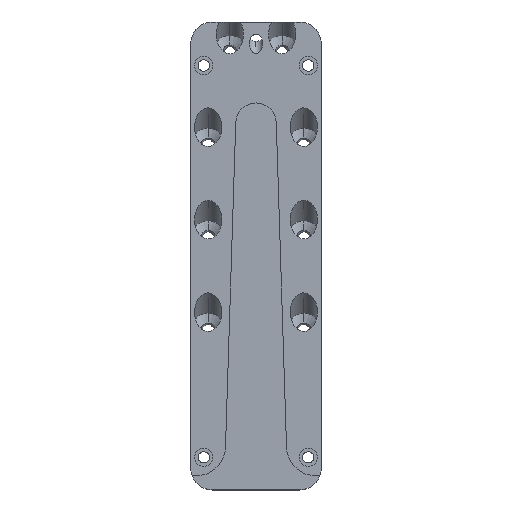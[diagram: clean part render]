
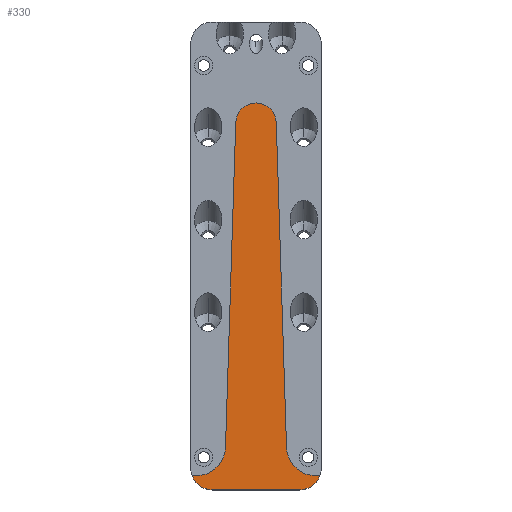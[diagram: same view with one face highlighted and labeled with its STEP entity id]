
A CAD part, top view. The second image highlights one B-rep face of the part: STEP entity #330.
In plain terms, the highlighted planar face has unit normal (0, 0, 1).
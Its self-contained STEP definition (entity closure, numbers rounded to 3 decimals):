
#117 = DIRECTION ( 'NONE',  ( 0., 0., 1. ) ) ;
#142 = CARTESIAN_POINT ( 'NONE',  ( -20., -65., 4. ) ) ;
#179 = DIRECTION ( 'NONE',  ( 1., 0., 0. ) ) ;
#321 = DIRECTION ( 'NONE',  ( 0., 0., -1. ) ) ;
#330 = ADVANCED_FACE ( 'NONE', ( #2421 ), #1927, .F. ) ;
#347 = DIRECTION ( 'NONE',  ( -1., 0., 0. ) ) ;
#356 = DIRECTION ( 'NONE',  ( 0., 0., 1. ) ) ;
#425 = EDGE_CURVE ( 'NONE', #1912, #1669, #1454, .T. ) ;
#505 = CARTESIAN_POINT ( 'NONE',  ( -27.484, -65., 4. ) ) ;
#526 = CIRCLE ( 'NONE', #1170, 12.779 ) ;
#536 = CARTESIAN_POINT ( 'NONE',  ( 12.773, 93.875, 4. ) ) ;
#557 = LINE ( 'NONE', #2792, #2001 ) ;
#587 = CARTESIAN_POINT ( 'NONE',  ( 0., -75., 4. ) ) ;
#589 = CARTESIAN_POINT ( 'NONE',  ( 20., -75., 4. ) ) ;
#621 = LINE ( 'NONE', #505, #2349 ) ;
#719 = VERTEX_POINT ( 'NONE', #1130 ) ;
#748 = DIRECTION ( 'NONE',  ( -1., 0., 0. ) ) ;
#783 = DIRECTION ( 'NONE',  ( -1., 0., 0. ) ) ;
#858 = ORIENTED_EDGE ( 'NONE', *, *, #2201, .F. ) ;
#901 = ORIENTED_EDGE ( 'NONE', *, *, #1123, .T. ) ;
#922 = CARTESIAN_POINT ( 'NONE',  ( 17.489, -55.316, 4. ) ) ;
#934 = EDGE_CURVE ( 'NONE', #1286, #1354, #1475, .T. ) ;
#1003 = DIRECTION ( 'NONE',  ( 0., 0., 1. ) ) ;
#1011 = ORIENTED_EDGE ( 'NONE', *, *, #2698, .F. ) ;
#1031 = VERTEX_POINT ( 'NONE', #1047 ) ;
#1047 = CARTESIAN_POINT ( 'NONE',  ( 27.484, -65., 4. ) ) ;
#1109 = EDGE_CURVE ( 'NONE', #1427, #1912, #2276, .T. ) ;
#1113 = ORIENTED_EDGE ( 'NONE', *, *, #1200, .F. ) ;
#1123 = EDGE_CURVE ( 'NONE', #2506, #1427, #2592, .T. ) ;
#1130 = CARTESIAN_POINT ( 'NONE',  ( -12.773, 93.875, 4. ) ) ;
#1154 = CARTESIAN_POINT ( 'NONE',  ( -17.489, -55.316, 4. ) ) ;
#1166 = DIRECTION ( 'NONE',  ( 0.032, 1., 0. ) ) ;
#1170 = AXIS2_PLACEMENT_3D ( 'NONE', #2087, #321, #748 ) ;
#1177 = ORIENTED_EDGE ( 'NONE', *, *, #425, .T. ) ;
#1200 = EDGE_CURVE ( 'NONE', #719, #1885, #526, .T. ) ;
#1204 = VECTOR ( 'NONE', #2407, 1000. ) ;
#1286 = VERTEX_POINT ( 'NONE', #2566 ) ;
#1294 = VECTOR ( 'NONE', #1854, 1000. ) ;
#1322 = CARTESIAN_POINT ( 'NONE',  ( -20., -75., 4. ) ) ;
#1354 = VERTEX_POINT ( 'NONE', #2416 ) ;
#1366 = DIRECTION ( 'NONE',  ( -1., 0., 0. ) ) ;
#1390 = ORIENTED_EDGE ( 'NONE', *, *, #2489, .F. ) ;
#1427 = VERTEX_POINT ( 'NONE', #1322 ) ;
#1454 = CIRCLE ( 'NONE', #2055, 10. ) ;
#1475 = CIRCLE ( 'NONE', #1651, 10. ) ;
#1498 = VECTOR ( 'NONE', #1166, 1000. ) ;
#1528 = DIRECTION ( 'NONE',  ( 0., 0., 1. ) ) ;
#1547 = ORIENTED_EDGE ( 'NONE', *, *, #2870, .F. ) ;
#1637 = CARTESIAN_POINT ( 'NONE',  ( 30., -65., 4. ) ) ;
#1639 = CIRCLE ( 'NONE', #1653, 10. ) ;
#1651 = AXIS2_PLACEMENT_3D ( 'NONE', #2398, #1003, #2808 ) ;
#1653 = AXIS2_PLACEMENT_3D ( 'NONE', #2190, #1528, #179 ) ;
#1669 = VERTEX_POINT ( 'NONE', #1637 ) ;
#1704 = ORIENTED_EDGE ( 'NONE', *, *, #2751, .T. ) ;
#1781 = ORIENTED_EDGE ( 'NONE', *, *, #934, .F. ) ;
#1854 = DIRECTION ( 'NONE',  ( 0.032, -1., 0. ) ) ;
#1885 = VERTEX_POINT ( 'NONE', #2641 ) ;
#1899 = LINE ( 'NONE', #536, #1294 ) ;
#1912 = VERTEX_POINT ( 'NONE', #589 ) ;
#1927 = PLANE ( 'NONE',  #2578 ) ;
#2001 = VECTOR ( 'NONE', #2819, 1000. ) ;
#2055 = AXIS2_PLACEMENT_3D ( 'NONE', #2669, #356, #2199 ) ;
#2087 = CARTESIAN_POINT ( 'NONE',  ( 0., 93.471, 4. ) ) ;
#2151 = EDGE_LOOP ( 'NONE', ( #2774, #1177, #1547, #1390, #858, #1113, #1011, #1781, #1704, #901 ) ) ;
#2156 = CARTESIAN_POINT ( 'NONE',  ( -27.484, -77., 4. ) ) ;
#2190 = CARTESIAN_POINT ( 'NONE',  ( 27.484, -55., 4. ) ) ;
#2199 = DIRECTION ( 'NONE',  ( -1., 0., 0. ) ) ;
#2201 = EDGE_CURVE ( 'NONE', #1885, #2648, #1899, .T. ) ;
#2276 = LINE ( 'NONE', #587, #1204 ) ;
#2337 = AXIS2_PLACEMENT_3D ( 'NONE', #142, #117, #347 ) ;
#2349 = VECTOR ( 'NONE', #1366, 1000. ) ;
#2398 = CARTESIAN_POINT ( 'NONE',  ( -27.484, -55., 4. ) ) ;
#2407 = DIRECTION ( 'NONE',  ( 1., 0., 0. ) ) ;
#2416 = CARTESIAN_POINT ( 'NONE',  ( -17.489, -55.316, 4. ) ) ;
#2421 = FACE_OUTER_BOUND ( 'NONE', #2151, .T. ) ;
#2489 = EDGE_CURVE ( 'NONE', #2648, #1031, #1639, .T. ) ;
#2496 = LINE ( 'NONE', #1154, #1498 ) ;
#2506 = VERTEX_POINT ( 'NONE', #2883 ) ;
#2566 = CARTESIAN_POINT ( 'NONE',  ( -27.484, -65., 4. ) ) ;
#2578 = AXIS2_PLACEMENT_3D ( 'NONE', #2156, #2810, #783 ) ;
#2592 = CIRCLE ( 'NONE', #2337, 10. ) ;
#2641 = CARTESIAN_POINT ( 'NONE',  ( 12.773, 93.875, 4. ) ) ;
#2648 = VERTEX_POINT ( 'NONE', #922 ) ;
#2669 = CARTESIAN_POINT ( 'NONE',  ( 20., -65., 4. ) ) ;
#2698 = EDGE_CURVE ( 'NONE', #1354, #719, #2496, .T. ) ;
#2751 = EDGE_CURVE ( 'NONE', #1286, #2506, #621, .T. ) ;
#2774 = ORIENTED_EDGE ( 'NONE', *, *, #1109, .T. ) ;
#2792 = CARTESIAN_POINT ( 'NONE',  ( 27.484, -65., 4. ) ) ;
#2808 = DIRECTION ( 'NONE',  ( 1., 0., 0. ) ) ;
#2810 = DIRECTION ( 'NONE',  ( 0., 0., -1. ) ) ;
#2819 = DIRECTION ( 'NONE',  ( 1., 0., 0. ) ) ;
#2870 = EDGE_CURVE ( 'NONE', #1031, #1669, #557, .T. ) ;
#2883 = CARTESIAN_POINT ( 'NONE',  ( -30., -65., 4. ) ) ;
